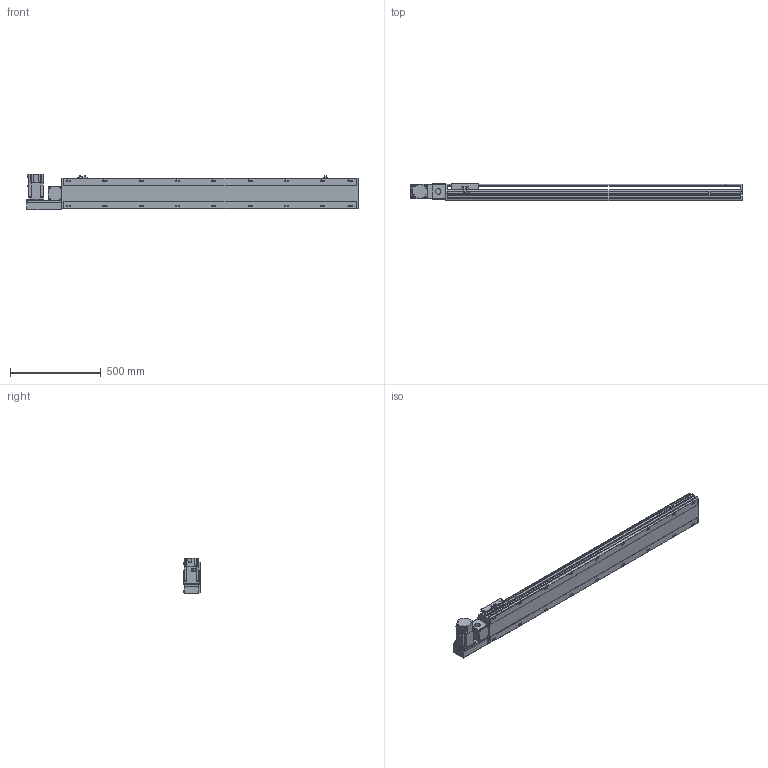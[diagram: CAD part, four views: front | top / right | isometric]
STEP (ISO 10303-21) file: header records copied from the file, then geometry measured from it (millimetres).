
FILE_DESCRIPTION( ( 'STEP AP214' ), '1' );
FILE_NAME( 'x:/temp/worker_3/temp/exporttempdir_5796_107_NTYWj/format_0/PBS170-P40-S1350-L-T75-C1-N(0).stp', '2022-06-07T06:55:43', ( 'License CC BY-ND 4.0' ), ( 'CADENAS' ), ' ', 'PARTsolutions', ' ' );
FILE_SCHEMA( ( 'AUTOMOTIVE_DESIGN { 1 0 10303 214 1 1 1 1 }' ) );
Length unit declared in the file: millimetre
Products named in the file (7): PBS170-P40-S1350-L-T75-C1-N(0); _PBS170-S1350()_body; _PBS170T-L_motors; _T75-p1; _PBS170_sliser; _PBS170_plant; _PBS170_sensor
Assembly tree (8 placements, depth 2):
  PBS170-P40-S1350-L-T75-C1-N(0)
    _PBS170-S1350()_body
    _PBS170T-L_motors
    _T75-p1
    _PBS170_sliser
    _PBS170_plant
    _PBS170_sensor  x3
Bounding box: 1828 x 97 x 197.3 mm (x, y, z)
Volume: 13484859.6 mm3; surface area: 1740827.6 mm2
Topology: 8 solids, 8 shells, 1098 faces, 2915 edges, 1900 vertices
Faces by surface type: plane 693, cylinder 347, cone 48, sphere 8, torus 2
Full cylindrical faces by diameter (mm): 3.242 x4, 4 x2, 4.4 x4, 4.5 x6, 4.917 x4, 6 x9, 6.647 x26, 7 x2, 7.5 x4, 8 x8, 8.5 x18, 10 x4, 10.5 x18, 11 x2, 30 x2, 40 x1, 70 x1
Entity records: 40382 total; most frequent: CARTESIAN_POINT 6389, DIRECTION 5370, ORIENTED_EDGE 5088, EDGE_CURVE 2544, AXIS2_PLACEMENT_3D 1867, VERTEX_POINT 1754, LINE 1636, VECTOR 1636
